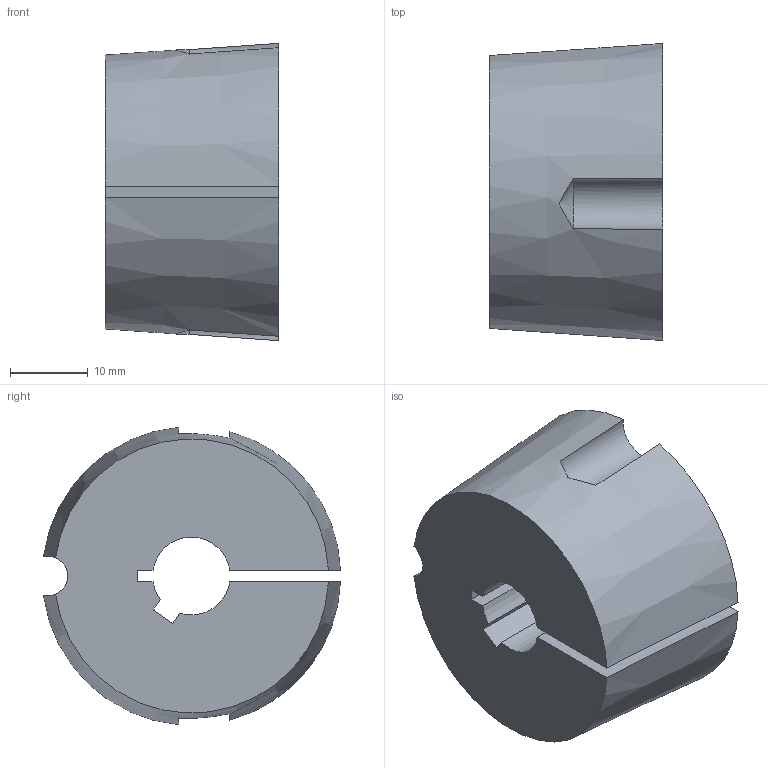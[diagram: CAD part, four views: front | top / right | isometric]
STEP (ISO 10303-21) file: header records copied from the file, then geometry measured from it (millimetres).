
FILE_DESCRIPTION( ( 'STEP AP203' ), '1' );
FILE_NAME( 'D:/export/antriebselemente/spannbuchsen_und_spannsaetze/taper-spannbuchsen_1008_bis_5050/taper-spannbuchsen_62250210Isometric_17.stp', '2018-12-11T11:10:57', ( '' ), ( '' ), ' ', 'PARTsolutions', ' ' );
FILE_SCHEMA( ( 'CONFIG_CONTROL_DESIGN' ) );
Length unit declared in the file: millimetre
Products named in the file (1): _taper-spannbuchsen_62250210
Bounding box: 22.3 x 38.22 x 38.26 mm (x, y, z)
Volume: 20762.9 mm3; surface area: 6011 mm2
Topology: 1 solids, 1 shells, 20 faces, 54 edges, 36 vertices
Faces by surface type: plane 10, cylinder 6, cone 4
Entity records: 736 total; most frequent: CARTESIAN_POINT 187, ORIENTED_EDGE 108, DIRECTION 104, EDGE_CURVE 54, AXIS2_PLACEMENT_3D 39, VERTEX_POINT 36, LINE 26, VECTOR 26
